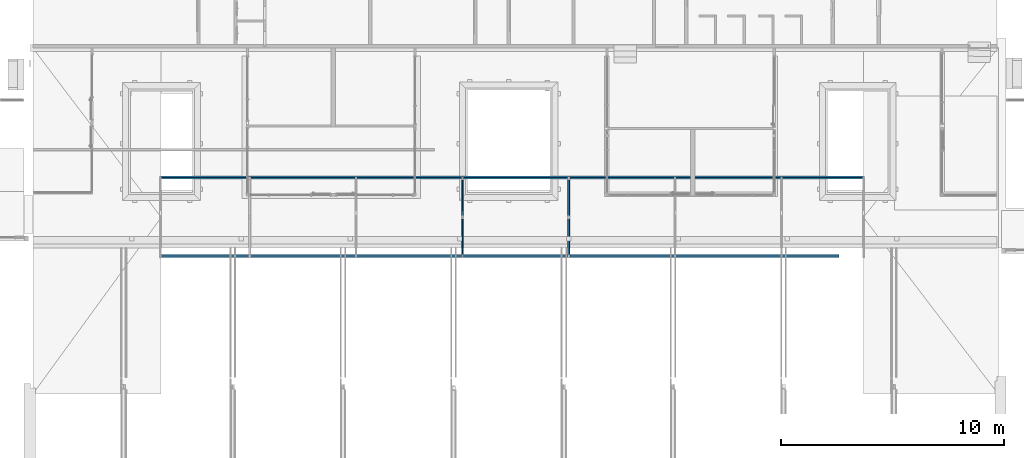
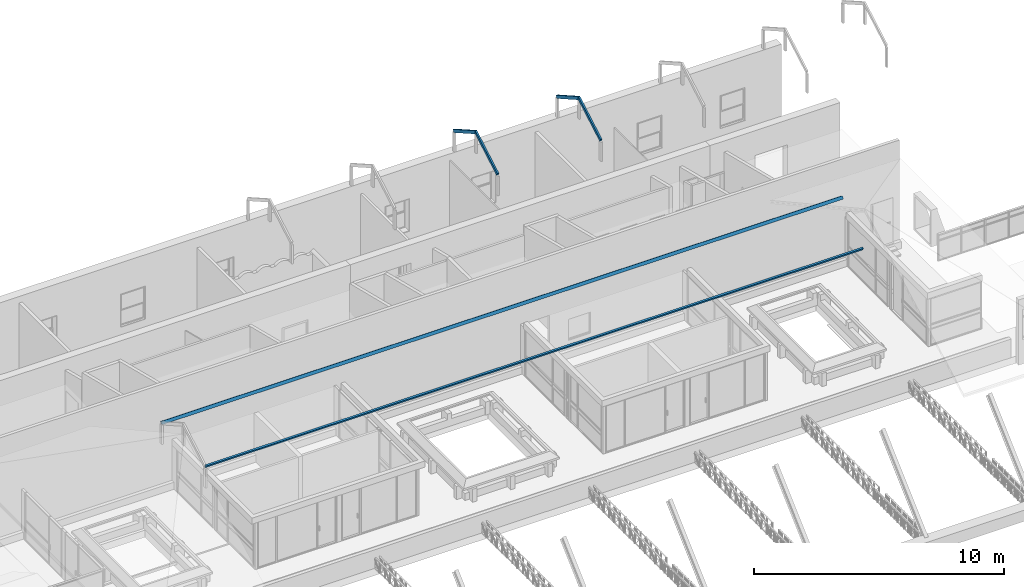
# One storey, part 6 of 153: 6 beams, 2 elements without a shape of their own.
"""IFC4 building model written with IfcOpenShell, lengths in metres."""

from ifc_helpers import new_model, entity, si_unit, converted_unit, derived_unit, direction, frame, origin, place, context, subcontext, project, spatial, indexed_curve, outline, extrude, source, transform, mapped, material, type_object, type_shapes, element, aggregate, save


model = new_model("IFC4")

# Units and contexts
model_context = context("Model", 3, precision=1e-05, world=origin(), true_north=direction((6.123031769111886e-17, 1.0)))
body_context = subcontext(model_context, "Body", "Model", "MODEL_VIEW")
ifc_project = project(units=[si_unit("LENGTHUNIT", "METRE"), si_unit("AREAUNIT", "SQUARE_METRE"), si_unit("VOLUMEUNIT", "CUBIC_METRE"), converted_unit("PLANEANGLEUNIT", "DEGREE", entity("IfcRatioMeasure", 0.017453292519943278), si_unit("PLANEANGLEUNIT", "RADIAN"), dimensions=[0, 0, 0, 0, 0, 0, 0]), si_unit("MASSUNIT", "GRAM", prefix="KILO"), derived_unit("MASSDENSITYUNIT", [(si_unit("MASSUNIT", "GRAM", prefix="KILO"), 1), (si_unit("LENGTHUNIT", "METRE"), -3)]), derived_unit("MOMENTOFINERTIAUNIT", [(si_unit("LENGTHUNIT", "METRE"), 4)]), si_unit("TIMEUNIT", "SECOND"), si_unit("FREQUENCYUNIT", "HERTZ"), si_unit("THERMODYNAMICTEMPERATUREUNIT", "DEGREE_CELSIUS"), derived_unit("THERMALTRANSMITTANCEUNIT", [(si_unit("MASSUNIT", "GRAM", prefix="KILO"), 1), (si_unit("THERMODYNAMICTEMPERATUREUNIT", "KELVIN"), -1), (si_unit("TIMEUNIT", "SECOND"), -3)]), derived_unit("VOLUMETRICFLOWRATEUNIT", [(si_unit("LENGTHUNIT", "METRE"), 3), (si_unit("TIMEUNIT", "SECOND"), -1)]), derived_unit("MASSFLOWRATEUNIT", [(si_unit("MASSUNIT", "GRAM", prefix="KILO"), 1), (si_unit("TIMEUNIT", "SECOND"), -1)]), derived_unit("ROTATIONALFREQUENCYUNIT", [(si_unit("TIMEUNIT", "SECOND"), -1)]), si_unit("ELECTRICCURRENTUNIT", "AMPERE"), si_unit("ELECTRICVOLTAGEUNIT", "VOLT"), si_unit("POWERUNIT", "WATT"), si_unit("FORCEUNIT", "NEWTON", prefix="KILO"), si_unit("ILLUMINANCEUNIT", "LUX"), si_unit("LUMINOUSFLUXUNIT", "LUMEN"), si_unit("LUMINOUSINTENSITYUNIT", "CANDELA"), derived_unit("USERDEFINED", [(si_unit("MASSUNIT", "GRAM", prefix="KILO"), -1), (si_unit("LENGTHUNIT", "METRE"), -2), (si_unit("TIMEUNIT", "SECOND"), 3), (si_unit("LUMINOUSFLUXUNIT", "LUMEN"), 1)]), derived_unit("SOUNDPOWERUNIT", [(si_unit("MASSUNIT", "GRAM", prefix="KILO"), 1), (si_unit("LENGTHUNIT", "METRE"), 2), (si_unit("TIMEUNIT", "SECOND"), -3)]), derived_unit("SOUNDPRESSUREUNIT", [(si_unit("MASSUNIT", "GRAM", prefix="KILO"), 1), (si_unit("LENGTHUNIT", "METRE"), -1), (si_unit("TIMEUNIT", "SECOND"), -2)]), derived_unit("LINEARVELOCITYUNIT", [(si_unit("LENGTHUNIT", "METRE"), 1), (si_unit("TIMEUNIT", "SECOND"), -1)]), si_unit("PRESSUREUNIT", "PASCAL"), derived_unit("USERDEFINED", [(si_unit("LENGTHUNIT", "METRE"), -2), (si_unit("MASSUNIT", "GRAM", prefix="KILO"), 1), (si_unit("TIMEUNIT", "SECOND"), -2)]), derived_unit("LINEARFORCEUNIT", [(si_unit("MASSUNIT", "GRAM", prefix="KILO"), 1), (si_unit("LENGTHUNIT", "METRE"), 1), (si_unit("TIMEUNIT", "SECOND"), -2), (si_unit("LENGTHUNIT", "METRE"), -1)]), derived_unit("PLANARFORCEUNIT", [(si_unit("MASSUNIT", "GRAM", prefix="KILO"), 1), (si_unit("LENGTHUNIT", "METRE"), 1), (si_unit("TIMEUNIT", "SECOND"), -2), (si_unit("LENGTHUNIT", "METRE"), -2)])], contexts=[model_context])

# Site, building, storey
site_placement = place(None, origin())
site = spatial("IfcSite", under=ifc_project, at=site_placement, Name="Superficie", CompositionType="ELEMENT")
building_placement = place(site_placement, origin())
building = spatial("IfcBuilding", under=site, at=building_placement, CompositionType="ELEMENT")
storey_placement = place(building_placement, frame((0.0, 0.0, 3.5999999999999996)))
storey = spatial("IfcBuildingStorey", under=building, at=storey_placement, Name="Nivel 1", CompositionType="ELEMENT", Elevation=3.5999999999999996)

# Assembly, beams
assembly_1_placement = place(storey_placement, origin())
assembly_1 = element("IfcElementAssembly", 1, at=assembly_1_placement, inside=storey, Name="Cercha superior:Cercha superior", ObjectType="Cercha superior:Cercha superior", AssemblyPlace="NOTDEFINED", PredefinedType="TRUSS")
ifc_material = material(Name="Madera - Madera de construcción", Category="Madera")
beam_type_1 = type_object("IfcBeamType", Name="Glulam-Pino del sur:76X140", PredefinedType="BEAM", material=ifc_material)
shared_shape_1 = source(origin(), body_context, "Body", "SweptSolid", [
    extrude(outline(indexed_curve([(-0.9661116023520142, -0.07000000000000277), (1.0061114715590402, -0.07000000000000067), (1.0061114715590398, 0.06999999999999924), (-1.046111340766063, 0.06999999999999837), (-0.9661116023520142, -0.07000000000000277)], self_intersect=False)), frame((-3.426073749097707, -1.0837862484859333, 12.134452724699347), z_axis=(1.0, 0.0, 0.0), x_axis=(0.0, 0.8695829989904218, -0.49378680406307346)), (0.0, 0.0, 1.0), 0.0760000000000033),
])
type_shapes(beam_type_1, [shared_shape_1])
beam_1_placement = place(building_placement, frame((0.0, 0.0, 9.562421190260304)))
beam_1 = element("IfcBeam", 2, at=beam_1_placement, type_object=beam_type_1, material=ifc_material, Name="Glulam-Pino del sur:76X140", ObjectType="Glulam-Pino del sur:76X140", PredefinedType="BEAM", context=body_context, shape_type="MappedRepresentation", body=[
    mapped(shared_shape_1, transform((0.0, 0.0, 0.0), scale=1.0)),
])
beam_type_2 = type_object("IfcBeamType", Name="Glulam-Pino del sur:76X140", PredefinedType="BEAM", material=ifc_material)
shared_shape_2 = source(origin(), body_context, "Body", "SweptSolid", [
    extrude(outline(indexed_curve([(-1.0091695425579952, -0.07000000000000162), (0.969169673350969, -0.07000000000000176), (1.0491694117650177, 0.06999999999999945), (-1.0091695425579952, 0.0699999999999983), (-1.0091695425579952, -0.07000000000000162)], self_intersect=False)), frame((-3.4260737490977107, -2.833531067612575, 12.128201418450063), z_axis=(1.0, 0.0, 0.0), x_axis=(0.0, 0.866898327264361, 0.49848499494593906)), (0.0, 0.0, 1.0), 0.07600000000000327),
])
type_shapes(beam_type_2, [shared_shape_2])
beam_2_placement = place(building_placement, frame((0.0, 0.0, 9.562421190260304)))
beam_2 = element("IfcBeam", 3, at=beam_2_placement, type_object=beam_type_2, material=ifc_material, Name="Glulam-Pino del sur:76X140", ObjectType="Glulam-Pino del sur:76X140", PredefinedType="BEAM", context=body_context, shape_type="MappedRepresentation", body=[
    mapped(shared_shape_2, transform((0.0, 0.0, 0.0), scale=1.0)),
])
aggregate(assembly_1, [beam_1, beam_2])

assembly_2_placement = place(storey_placement, origin())
assembly_2 = element("IfcElementAssembly", 4, at=assembly_2_placement, inside=storey, Name="Cercha superior:Cercha superior", ObjectType="Cercha superior:Cercha superior", AssemblyPlace="NOTDEFINED", PredefinedType="TRUSS")
beam_type_3 = type_object("IfcBeamType", Name="Glulam-Pino del sur:76X140", PredefinedType="BEAM", material=ifc_material)
shared_shape_3 = source(origin(), body_context, "Body", "SweptSolid", [
    extrude(outline(indexed_curve([(-0.9661116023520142, -0.0700000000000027), (1.0061114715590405, -0.07000000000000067), (1.0061114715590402, 0.06999999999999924), (-1.046111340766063, 0.06999999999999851), (-0.9661116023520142, -0.0700000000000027)], self_intersect=False)), frame((1.3439262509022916, -1.083786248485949, 12.134452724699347), z_axis=(1.0, 0.0, 0.0), x_axis=(0.0, 0.8695829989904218, -0.4937868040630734)), (0.0, 0.0, 1.0), 0.0760000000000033),
])
type_shapes(beam_type_3, [shared_shape_3])
beam_3_placement = place(building_placement, frame((0.0, 0.0, 9.562421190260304)))
beam_3 = element("IfcBeam", 5, at=beam_3_placement, type_object=beam_type_3, material=ifc_material, Name="Glulam-Pino del sur:76X140", ObjectType="Glulam-Pino del sur:76X140", PredefinedType="BEAM", context=body_context, shape_type="MappedRepresentation", body=[
    mapped(shared_shape_3, transform((0.0, 0.0, 0.0), scale=1.0)),
])
beam_type_4 = type_object("IfcBeamType", Name="Glulam-Pino del sur:76X140", PredefinedType="BEAM", material=ifc_material)
shared_shape_4 = source(origin(), body_context, "Body", "SweptSolid", [
    extrude(outline(indexed_curve([(-1.009169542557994, -0.06999999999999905), (0.9691696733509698, -0.07000000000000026), (1.0491694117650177, 0.0699999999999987), (-1.009169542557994, 0.07000000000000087), (-1.009169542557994, -0.06999999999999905)], self_intersect=False)), frame((1.3439262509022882, -2.8335310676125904, 12.128201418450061), z_axis=(1.0, 0.0, 0.0), x_axis=(0.0, 0.866898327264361, 0.49848499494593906)), (0.0, 0.0, 1.0), 0.07600000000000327),
])
type_shapes(beam_type_4, [shared_shape_4])
beam_4_placement = place(building_placement, frame((0.0, 0.0, 9.562421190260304)))
beam_4 = element("IfcBeam", 6, at=beam_4_placement, type_object=beam_type_4, material=ifc_material, Name="Glulam-Pino del sur:76X140", ObjectType="Glulam-Pino del sur:76X140", PredefinedType="BEAM", context=body_context, shape_type="MappedRepresentation", body=[
    mapped(shared_shape_4, transform((0.0, 0.0, 0.0), scale=1.0)),
])
aggregate(assembly_2, [beam_3, beam_4])

# Beams
beam_type_5 = type_object("IfcBeamType", Name="Glulam-Pino del sur:76X140", PredefinedType="BEAM", material=ifc_material)
shared_shape_5 = source(origin(), body_context, "Body", "SweptSolid", [
    extrude(outline(indexed_curve([(-0.07, -0.03800000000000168), (0.06999999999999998, -0.03800000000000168), (0.06999999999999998, 0.03800000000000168), (-0.06999999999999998, 0.03800000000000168), (-0.07, -0.03800000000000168)], self_intersect=False)), frame((-6.442530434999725, 0.0, 0.0), z_axis=(1.0, 0.0, 0.0), x_axis=(0.0, 0.0, -1.0)), (0.0, 0.0, 1.0), 31.520549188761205),
])
type_shapes(beam_type_5, [shared_shape_5])
beam_5_placement = place(storey_placement, frame((-10.480670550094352, -0.18829235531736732, 8.025952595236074), z_axis=(0.0, 0.49378680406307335, 0.8695829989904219), x_axis=(1.0, 0.0, 0.0)))
element("IfcBeam", 7, at=beam_5_placement, inside=storey, type_object=beam_type_5, material=ifc_material, Name="Glulam-Pino del sur:76X140", ObjectType="Glulam-Pino del sur:76X140", PredefinedType="BEAM", context=body_context, shape_type="MappedRepresentation", body=[
    mapped(shared_shape_5, transform((0.0, 0.0, 0.0), scale=1.0)),
])
beam_type_6 = type_object("IfcBeamType", Name="Glulam-Pino del sur:76X140", PredefinedType="BEAM", material=ifc_material)
shared_shape_6 = source(origin(), body_context, "Body", "SweptSolid", [
    extrude(outline(indexed_curve([(-0.07000000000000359, -0.03800000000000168), (0.06999999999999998, -0.03800000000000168), (0.06999999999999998, 0.03800000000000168), (-0.06999999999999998, 0.03800000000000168), (-0.07000000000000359, -0.03800000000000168)], self_intersect=False)), frame((-1.3384075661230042, 0.0, 0.0), z_axis=(1.0, 0.0, 0.0), x_axis=(0.0, 0.0, -1.0)), (0.0, 0.0, 1.0), 30.425971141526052),
])
type_shapes(beam_type_6, [shared_shape_6])
beam_6_placement = place(storey_placement, frame((12.164362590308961, -3.691833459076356, 8.03465926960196), z_axis=(0.0, -0.4984849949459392, 0.866898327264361), x_axis=(-1.0, 0.0, 0.0)))
element("IfcBeam", 8, at=beam_6_placement, inside=storey, type_object=beam_type_6, material=ifc_material, Name="Glulam-Pino del sur:76X140", ObjectType="Glulam-Pino del sur:76X140", PredefinedType="BEAM", context=body_context, shape_type="MappedRepresentation", body=[
    mapped(shared_shape_6, transform((0.0, 0.0, 0.0), scale=1.0)),
])

save(model, "model.ifc")
